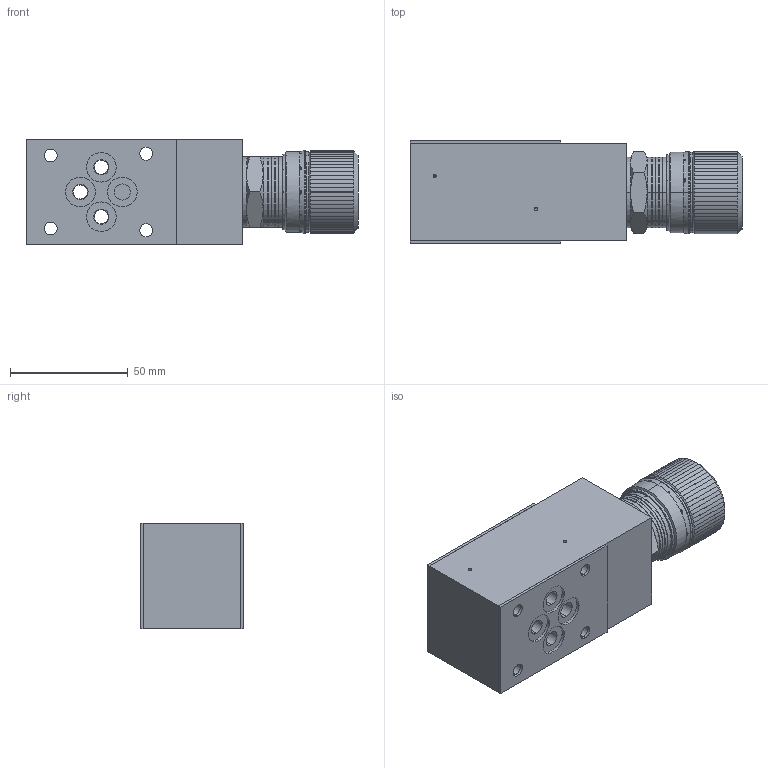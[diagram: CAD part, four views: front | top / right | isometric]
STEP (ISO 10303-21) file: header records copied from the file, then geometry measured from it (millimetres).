
FILE_DESCRIPTION (( 'STEP AP214' ), '1' );
FILE_NAME ('AURDVB6.STEP', '2017-04-12T14:13:54', ( '' ), ( '' ), 'SwSTEP 2.0', 'SolidWorks 2016', '' );
FILE_SCHEMA (( 'AUTOMOTIVE_DESIGN' ));
Length unit declared in the file: millimetre
Products named in the file (1): AURDVB6
Bounding box: 141 x 44 x 45 mm (x, y, z)
Volume: 211040.7 mm3; surface area: 42455.3 mm2
Topology: 3 solids, 3 shells, 919 faces, 2580 edges, 1682 vertices
Faces by surface type: plane 589, cylinder 182, cone 100, bspline 48
Entity records: 44474 total; most frequent: CARTESIAN_POINT 12025, ORIENTED_EDGE 5140, DIRECTION 4141, EDGE_CURVE 2570, VERTEX_POINT 1682, AXIS2_PLACEMENT_3D 1551, VECTOR 1039, LINE 1039
